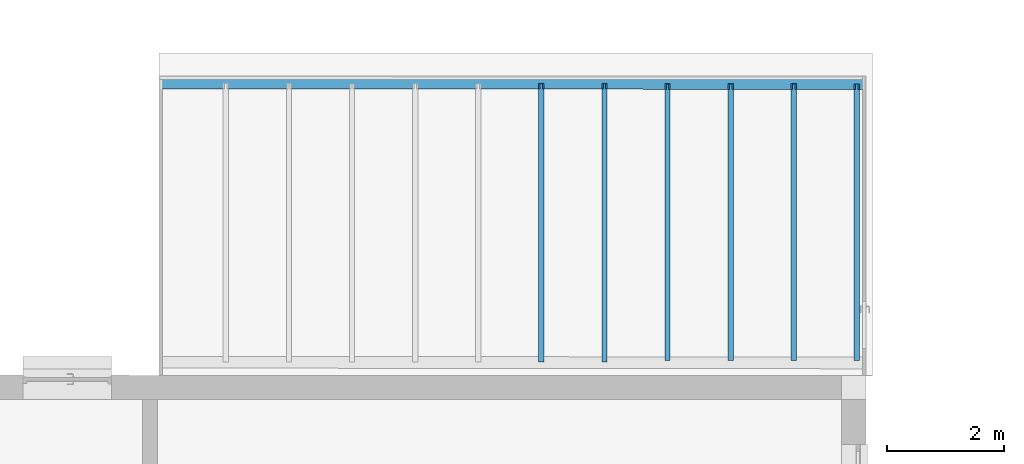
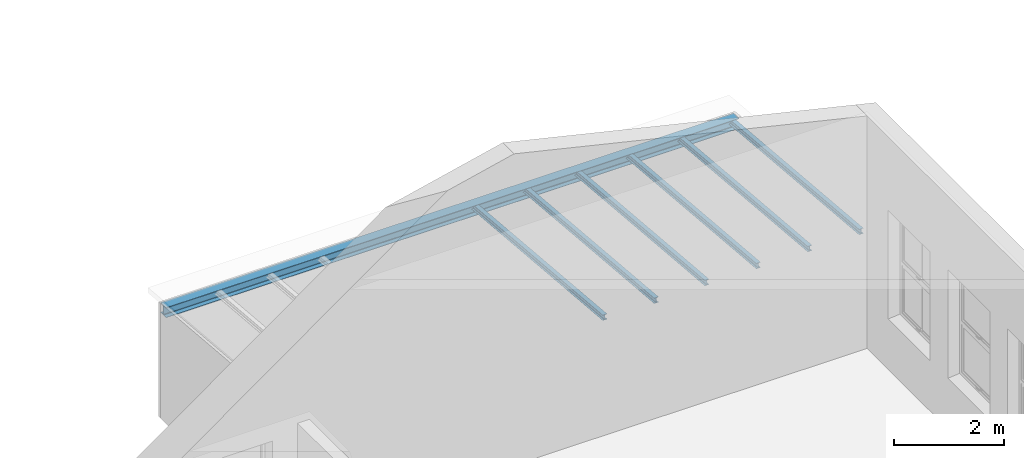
# One storey, part 65 of 301: 7 beams.
"""IFC2X3 building model written with IfcOpenShell, lengths in millimetres."""

import ifcopenshell
import ifcopenshell.guid

model = None  # the IFC model being written
_history = None  # IfcOwnerHistory: only IFC2X3 demands one
_inside = {}  # id of a spatial element -> (the spatial element, [elements in it])
_under = {}  # id of a project, library or spatial element -> (it, [spatial elements below it])
_declared = {}  # id of a project -> (the project, [libraries it declares])
_typed = {}  # id of a type object -> (the type object, [elements of that type])
_made_of = {}  # id of a material, layer set ... -> (it, [elements and type objects made of it])


def new_model(schema):
    """Start an empty IFC model of exactly this schema.

    Asked for "IFC4X3", IfcOpenShell would pick the latest addendum, in which some entities
    have other attributes; the version numbers below select the first issue.
    IFC2X3 requires an IfcOwnerHistory on every rooted entity: one is made here for all.
    """
    global model, _history
    if schema == "IFC4X3":
        model = ifcopenshell.file(schema_version=(4, 3, 0, 0))
    else:
        model = ifcopenshell.file(schema=schema)
    _inside.clear()
    _under.clear()
    _declared.clear()
    _typed.clear()
    _made_of.clear()
    _history = None
    if model.schema == "IFC2X3":
        org = make("IfcOrganization", Name="unknown")
        user = make(
            "IfcPersonAndOrganization",
            ThePerson=make("IfcPerson", FamilyName="unknown"),
            TheOrganization=org,
        )
        app = make(
            "IfcApplication",
            ApplicationDeveloper=org,
            Version="unknown",
            ApplicationFullName="unknown",
            ApplicationIdentifier="unknown",
        )
        _history = make(
            "IfcOwnerHistory",
            OwningUser=user,
            OwningApplication=app,
            ChangeAction="ADDED",
            CreationDate=0,
        )
    return model


def make(cls, **values):
    """One entity of the class cls with the attributes given. An attribute that is None is left unset."""
    return model.create_entity(
        cls, **{name: value for name, value in values.items() if value is not None}
    )


def entity(cls, *values):
    """Any entity or typed value of the class cls, its attributes in the order of the schema. None: left unset."""
    e = model.create_entity(cls)
    for i, value in enumerate(values):
        if value is not None:
            e[i] = value
    return e


def rooted(cls, **values):
    """An entity with a GlobalId (a new one), such as an element, a storey or a relation."""
    return make(cls, GlobalId=ifcopenshell.guid.new(), OwnerHistory=_history, **values)


def si_unit(unit_type, name, prefix=None):
    """IfcSIUnit, for example si_unit("LENGTHUNIT", "METRE", prefix="MILLI")."""
    return make("IfcSIUnit", UnitType=unit_type, Prefix=prefix, Name=name)


def converted_unit(unit_type, name, factor, base, dimensions=None, offset=None):
    """IfcConversionBasedUnit, such as the inch: factor (a typed value) times the base unit."""
    return make(
        "IfcConversionBasedUnit"
        if offset is None
        else "IfcConversionBasedUnitWithOffset",
        ConversionOffset=offset,
        Dimensions=None
        if dimensions is None
        else entity("IfcDimensionalExponents", *dimensions),
        UnitType=unit_type,
        Name=name,
        ConversionFactor=make(
            "IfcMeasureWithUnit", ValueComponent=factor, UnitComponent=base
        ),
    )


def derived_unit(unit_type, elements):
    """IfcDerivedUnit: a product of units, each with its exponent."""
    return make(
        "IfcDerivedUnit",
        Elements=[
            make("IfcDerivedUnitElement", Unit=unit, Exponent=power)
            for unit, power in elements
        ],
        UnitType=unit_type,
    )


def money_unit(currency):
    """IfcMonetaryUnit."""
    return make("IfcMonetaryUnit", Currency=currency)


def assignment(units):
    """IfcUnitAssignment: the units of a project."""
    return None if units is None else make("IfcUnitAssignment", Units=units)


def point(xyz):
    """IfcCartesianPoint."""
    return None if xyz is None else make("IfcCartesianPoint", Coordinates=xyz)


def direction(xyz):
    """IfcDirection."""
    return None if xyz is None else make("IfcDirection", DirectionRatios=xyz)


def frame(location, z_axis=None, x_axis=None):
    """IfcAxis2Placement3D, a coordinate frame: its origin and axes. An axis left out is left unset."""
    return make(
        "IfcAxis2Placement3D",
        Location=point(location),
        Axis=direction(z_axis),
        RefDirection=direction(x_axis),
    )


def origin_with_axes():
    """The frame at (0, 0, 0) with the z axis (0, 0, 1) and the x axis (1, 0, 0) written out."""
    return frame((0.0, 0.0, 0.0), z_axis=(0.0, 0.0, 1.0), x_axis=(1.0, 0.0, 0.0))


def place(relative_to, where):
    """IfcLocalPlacement: puts the frame where relative to a parent placement (None: the world)."""
    return make(
        "IfcLocalPlacement", PlacementRelTo=relative_to, RelativePlacement=where
    )


def context(
    kind, dimensions, precision=None, world=None, true_north=None, identifier=None
):
    """IfcGeometricRepresentationContext, for example the 3D "Model" context."""
    return make(
        "IfcGeometricRepresentationContext",
        ContextIdentifier=identifier,
        ContextType=kind,
        CoordinateSpaceDimension=dimensions,
        Precision=precision,
        WorldCoordinateSystem=world,
        TrueNorth=true_north,
    )


def subcontext(parent, identifier, kind, view, scale=None):
    """IfcGeometricRepresentationSubContext, for example "Body" below "Model"."""
    return make(
        "IfcGeometricRepresentationSubContext",
        ContextIdentifier=identifier,
        ContextType=kind,
        ParentContext=parent,
        TargetScale=scale,
        TargetView=view,
    )


def project(units=None, contexts=None):
    """IfcProject with its units and contexts."""
    return rooted(
        "IfcProject",
        Name="project",
        RepresentationContexts=contexts,
        UnitsInContext=assignment(units),
    )


def spatial(cls, under=None, at=None, **own):
    """A site, building, storey or space (cls), placed at a placement, below another one or the project."""
    s = rooted(cls, ObjectPlacement=at, **own)
    if under is not None:
        _under.setdefault(under.id(), (under, []))[1].append(s)
    return s


def faces_of(points, faces, orient=None, outer=None):
    """IfcFace entities. A face is a list of loops; a loop is a list of indices into points, from 0.

    orient and outer hold one flag for each loop. By default every Orientation is true, the
    first loop of a face is its IfcFaceOuterBound and the others are IfcFaceBound.
    """
    made = []
    for i, loops in enumerate(faces):
        bounds = []
        for j, loop in enumerate(loops):
            is_outer = j == 0 if outer is None else outer[i][j]
            bounds.append(
                make(
                    "IfcFaceOuterBound" if is_outer else "IfcFaceBound",
                    Bound=make("IfcPolyLoop", Polygon=[points[k] for k in loop]),
                    Orientation=True if orient is None else orient[i][j],
                )
            )
        made.append(make("IfcFace", Bounds=bounds))
    return made


def faceted_brep(points, faces, orient=None, outer=None, voids=None):
    """IfcFacetedBrep: a solid bounded by flat faces; with voids (closed shells), ...WithVoids."""
    shared = [point(p) for p in points]
    hull = make("IfcClosedShell", CfsFaces=faces_of(shared, faces, orient, outer))
    if voids is None:
        return make("IfcFacetedBrep", Outer=hull)
    return make(
        "IfcFacetedBrepWithVoids",
        Outer=hull,
        Voids=[
            make(cls, CfsFaces=faces_of(shared, fs, o, b)) for cls, fs, o, b in voids
        ],
    )


def shape(context_of_items, identifier, shape_type, items):
    """IfcShapeRepresentation: the items that make up one representation, for example the "Body"."""
    return make(
        "IfcShapeRepresentation",
        ContextOfItems=context_of_items,
        RepresentationIdentifier=identifier,
        RepresentationType=shape_type,
        Items=items,
    )


def material(Name=None, Category=None):
    """IfcMaterial."""
    return make("IfcMaterial", Name=Name, Category=Category)


def made_of(thing, what):
    """Note that an element or type object is made of a material, layer set ...; save() writes the relation."""
    if what is not None:
        _made_of.setdefault(what.id(), (what, []))[1].append(thing)
    return thing


def type_object(cls, material=None, **own):
    """A type object (cls), such as IfcWallType, which elements share."""
    return made_of(rooted(cls, **own), material)


def element(
    cls,
    number,
    at=None,
    inside=None,
    cuts=None,
    type_object=None,
    material=None,
    context=None,
    identifier="Body",
    shape_type=None,
    held_by="IfcProductDefinitionShape",
    body=None,
    shapes=None,
    **own,
):
    """One element of the class cls, such as IfcWall. Its Tag is "e" and its number.

    at: its placement. inside: the storey or other place that contains it. cuts: it is an
    opening in that element (IfcRelVoidsElement). A single representation is given by context,
    identifier, shape_type and body (its items); several are given by shapes. held_by: the class
    of the entity that holds the representations. save() writes the other relations.
    """
    e = rooted(cls, Tag="e%d" % number, ObjectPlacement=at, **own)
    if body is not None:
        shapes = [shape(context, identifier, shape_type, body)]
    if shapes is not None:
        e.Representation = make(held_by, Representations=shapes)
    if inside is not None:
        _inside.setdefault(inside.id(), (inside, []))[1].append(e)
    if cuts is not None:
        rooted(
            "IfcRelVoidsElement", RelatingBuildingElement=cuts, RelatedOpeningElement=e
        )
    if type_object is not None:
        _typed.setdefault(type_object.id(), (type_object, []))[1].append(e)
    return made_of(e, material)


def aggregate(whole, parts):
    """IfcRelAggregates: a whole, such as a stair, and the parts it consists of."""
    return rooted("IfcRelAggregates", RelatingObject=whole, RelatedObjects=parts)


def save(model, path):
    """Write the relations noted so far, then the file.

    IfcRelAggregates (storeys below a building ...), IfcRelContainedInSpatialStructure (elements
    in a storey), IfcRelDefinesByType, IfcRelAssociatesMaterial and IfcRelDeclares: one each for
    every whole, place, type object, material and project.
    """
    for whole, parts in _under.values():
        aggregate(whole, parts)
    for where, things in _inside.values():
        rooted(
            "IfcRelContainedInSpatialStructure",
            RelatedElements=things,
            RelatingStructure=where,
        )
    for kind, things in _typed.values():
        rooted("IfcRelDefinesByType", RelatedObjects=things, RelatingType=kind)
    for what, things in _made_of.values():
        rooted("IfcRelAssociatesMaterial", RelatedObjects=things, RelatingMaterial=what)
    for by, libraries in _declared.values():
        rooted("IfcRelDeclares", RelatingContext=by, RelatedDefinitions=libraries)
    model.write(path)


model = new_model("IFC2X3")

# Units and contexts
model_context = context("Model", 3, precision=0.01, world=origin_with_axes(), true_north=direction((0.0, 1.0)))
body_context = subcontext(model_context, "Body", "Model", "MODEL_VIEW")
ifc_project = project(units=[si_unit("LENGTHUNIT", "METRE", prefix="MILLI"), si_unit("AREAUNIT", "SQUARE_METRE"), si_unit("VOLUMEUNIT", "CUBIC_METRE"), converted_unit("PLANEANGLEUNIT", "DEGREE", entity("IfcPlaneAngleMeasure", 0.0174532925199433), si_unit("PLANEANGLEUNIT", "RADIAN"), dimensions=[0, 0, 0, 0, 0, 0, 0]), money_unit("EUR"), converted_unit("TIMEUNIT", "Year", entity("IfcTimeMeasure", 31557600.0), si_unit("TIMEUNIT", "SECOND"), dimensions=[0, 0, 1, 0, 0, 0, 0]), si_unit("MASSUNIT", "GRAM", prefix="KILO"), si_unit("THERMODYNAMICTEMPERATUREUNIT", "DEGREE_CELSIUS"), si_unit("LUMINOUSINTENSITYUNIT", "LUMEN"), si_unit("ENERGYUNIT", "JOULE", prefix="MEGA"), derived_unit("THERMALCONDUCTANCEUNIT", [(si_unit("POWERUNIT", "WATT"), 1), (si_unit("LENGTHUNIT", "METRE"), -1), (si_unit("THERMODYNAMICTEMPERATUREUNIT", "KELVIN"), -1)]), derived_unit("SPECIFICHEATCAPACITYUNIT", [(si_unit("ENERGYUNIT", "JOULE"), 1), (si_unit("MASSUNIT", "GRAM", prefix="KILO"), -1), (si_unit("THERMODYNAMICTEMPERATUREUNIT", "KELVIN"), -1)]), derived_unit("MASSDENSITYUNIT", [(si_unit("MASSUNIT", "GRAM", prefix="KILO"), 1), (si_unit("VOLUMEUNIT", "CUBIC_METRE"), -1)])], contexts=[model_context])

# Site, building, storey
site_placement = place(None, frame((0.0, 0.0, 8650.0), z_axis=(0.0, 0.0, 1.0), x_axis=(1.0, 0.0, 0.0)))
site = spatial("IfcSite", under=ifc_project, at=site_placement, Name="43301:001:0844", CompositionType="ELEMENT")
building_placement = place(site_placement, origin_with_axes())
building = spatial("IfcBuilding", under=site, at=building_placement, Name="Kuressaare Ametikooli tuulikute mehaanikute õppekorpus", CompositionType="ELEMENT")
storey_placement = place(building_placement, origin_with_axes())
storey = spatial("IfcBuildingStorey", under=building, at=storey_placement, Name="1.korrus", CompositionType="ELEMENT", Elevation=0.0)

# Beams
ifc_material_1 = material(Name="GENEERILINE - EHITUSTOODE")
beam_type_1 = type_object("IfcBeamType", Name="IPI-I-tala-200x225 200 x 225", PredefinedType="NOTDEFINED")
beam_1_placement = place(storey_placement, frame((103602.1136141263, 127711.2776185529, 1325.182089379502), z_axis=(0.0, 0.0, 1.0), x_axis=(0.001036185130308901, 0.9999994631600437, 0.0)))
element("IfcBeam", 1, at=beam_1_placement, inside=storey, type_object=beam_type_1, material=ifc_material_1, context=body_context, shape_type="Brep", body=[
    faceted_brep([(-99.99999999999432, 0.0, 94.99999999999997), (-99.99999999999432, 11973.87483544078, 94.99999999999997), (-99.99999999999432, 11973.87483544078, 84.99999999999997), (-99.99999999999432, 0.0, 84.99999999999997), (100.0000000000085, 0.0, 94.99999999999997), (100.0000000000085, 11973.87483544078, 94.99999999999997), (100.0000000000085, 11973.87483544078, 84.99999999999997), (21.25000000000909, 11973.87483544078, 84.99999999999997), (12.24999999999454, 11973.87483544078, 82.58845726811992), (5.661542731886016, 11973.8748354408, 76.00000000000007), (3.250000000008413, 11973.87483544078, 66.99999999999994), (3.250000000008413, 11973.87483544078, -102.0000000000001), (5.661542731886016, 11973.8748354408, -111.0), (12.24999999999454, 11973.87483544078, -117.5884572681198), (21.25000000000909, 11973.87483544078, -120.0000000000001), (100.0000000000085, 11973.87483544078, -120.0000000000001), (100.0000000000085, 11973.87483544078, -130.0000000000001), (-99.99999999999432, 11973.87483544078, -130.0000000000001), (-99.99999999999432, 11973.87483544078, -120.0000000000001), (-21.24999999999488, 11973.87483544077, -120.0000000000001), (-12.24999999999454, 11973.87483544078, -117.5884572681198), (-5.661542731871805, 11973.87483544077, -111.0), (-3.249999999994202, 11973.87483544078, -102.0000000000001), (-3.249999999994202, 11973.87483544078, 66.99999999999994), (-5.661542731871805, 11973.87483544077, 76.00000000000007), (-12.24999999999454, 11973.87483544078, 82.58845726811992), (-21.24999999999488, 11973.87483544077, 84.99999999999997), (-21.24999999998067, 0.0, 84.99999999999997), (-12.24999999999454, 0.0, 82.58845726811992), (-5.661542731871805, 0.0, 76.00000000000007), (-3.249999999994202, 0.0, 66.99999999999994), (-3.249999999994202, 0.0, -102.0000000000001), (-5.661542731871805, 0.0, -111.0), (-12.24999999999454, 0.0, -117.5884572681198), (-21.24999999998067, 0.0, -120.0000000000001), (-99.99999999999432, 0.0, -120.0000000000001), (-99.99999999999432, 0.0, -130.0000000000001), (100.0000000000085, 0.0, -130.0000000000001), (100.0000000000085, 0.0, -120.0000000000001), (21.25000000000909, 0.0, -120.0000000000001), (12.24999999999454, 0.0, -117.5884572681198), (5.661542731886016, 0.0, -111.0), (3.250000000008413, 0.0, -102.0000000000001), (3.250000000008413, 0.0, 66.99999999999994), (5.661542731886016, 0.0, 76.00000000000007), (12.24999999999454, 0.0, 82.58845726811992), (21.25000000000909, 0.0, 84.99999999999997), (100.0000000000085, 0.0, 84.99999999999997)], [[[0, 1, 2, 3]], [[4, 5, 1, 0]], [[2, 1, 5, 6, 7, 8, 9, 10, 11, 12, 13, 14, 15, 16, 17, 18, 19, 20, 21, 22, 23, 24, 25, 26]], [[3, 2, 26, 27]], [[4, 0, 3, 27, 28, 29, 30, 31, 32, 33, 34, 35, 36, 37, 38, 39, 40, 41, 42, 43, 44, 45, 46, 47]], [[47, 6, 5, 4]], [[46, 7, 6, 47]], [[45, 8, 7, 46]], [[44, 9, 8, 45]], [[43, 10, 9, 44]], [[42, 11, 10, 43]], [[41, 12, 11, 42]], [[40, 13, 12, 41]], [[39, 14, 13, 40]], [[38, 15, 14, 39]], [[37, 16, 15, 38]], [[36, 17, 16, 37]], [[35, 18, 17, 36]], [[34, 19, 18, 35]], [[33, 20, 19, 34]], [[32, 21, 20, 33]], [[31, 22, 21, 32]], [[30, 23, 22, 31]], [[29, 24, 23, 30]], [[28, 25, 24, 29]], [[27, 26, 25, 28]]]),
])
ifc_material_2 = material(Name="GENEERILINE - KONSTRUKTRIOON")
beam_type_2 = type_object("IfcBeamType", Name="IPI-I-tala-90x120 90 x 120", PredefinedType="NOTDEFINED")
beam_2_placement = place(storey_placement, frame((98115.1513925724, 127716.9631302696, 1312.606456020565), z_axis=(0.0, 0.0, 1.0), x_axis=(-1.0, 0.0, 0.0)))
element("IfcBeam", 2, at=beam_2_placement, inside=storey, type_object=beam_type_2, material=ifc_material_2, context=body_context, shape_type="Brep", body=[
    faceted_brep([(-45.00000000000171, 4749.491260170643, 511.1302874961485), (-45.00000000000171, 4749.491260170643, 505.1073420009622), (-45.00617874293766, 100.046688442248, 98.09829825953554), (-45.00000000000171, 100.0466820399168, 104.1213168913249), (-5.641956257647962, 4749.491260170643, 496.0781166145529), (-12.2408998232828, 4749.491260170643, 502.6918074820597), (-21.24999999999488, 4749.491260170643, 505.1073420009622), (45.00000000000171, 4749.491260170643, 511.1302874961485), (45.00000000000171, 4749.491260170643, 505.1073420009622), (21.24999999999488, 4749.491260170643, 505.1073420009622), (12.20098340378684, 4749.491260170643, 502.7137438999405), (5.5565447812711, 4749.491260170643, 496.0990159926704), (3.097056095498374, 4749.491260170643, 487.0355692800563), (3.249999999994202, 4749.491260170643, 414.7631595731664), (5.661542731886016, 4749.491260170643, 405.7287413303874), (12.24999999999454, 4749.491260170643, 399.115088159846), (21.24999999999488, 4749.491260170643, 396.6943230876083), (45.00000000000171, 4749.491260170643, 396.6943230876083), (45.00000000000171, 4749.491260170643, 390.671377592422), (-45.00000000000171, 4749.491260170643, 390.671377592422), (-45.00000000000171, 4749.491260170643, 396.6943230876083), (-21.24999999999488, 4749.491260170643, 396.6943230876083), (-12.39887809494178, 4749.491260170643, 399.2139878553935), (-5.988614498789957, 4749.491260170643, 405.8385669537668), (-3.736834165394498, 4749.491260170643, 414.7930097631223), (-3.221350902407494, 4749.491260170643, 487.0384025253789), (-21.24999999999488, 100.0220726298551, 98.09621710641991), (21.24999999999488, 99.97803473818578, 98.09236206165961), (45.00000000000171, 99.95342532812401, 98.09020777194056), (45.00000000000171, 99.95342532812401, 104.1131532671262), (-19.30906105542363, 100.0200614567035, 97.57563335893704), (19.29583292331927, 99.98005961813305, 97.57563335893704), (-5.641956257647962, 3.535861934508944, 80.62065955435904), (-12.2408998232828, 5.357563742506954, 87.39382086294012), (-16.5438034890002, 5.678688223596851, 88.57563335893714), (-19.30906105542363, 6.494384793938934, 89.3884641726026), (19.29583292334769, 6.454382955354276, 89.38846417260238), (16.49095847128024, 5.644458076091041, 88.57563335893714), (12.20098340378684, 5.337648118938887, 87.41401388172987), (5.5565447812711, 3.529713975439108, 80.64102074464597), (5.274211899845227, 3.244536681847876, 79.57563335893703), (3.097056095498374, 3.246792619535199, 71.55280730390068), (3.249999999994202, 3.246634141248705, -0.7196162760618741), (5.661542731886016, 3.244135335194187, -9.754253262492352), (12.24999999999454, 3.237308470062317, -16.36850405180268), (21.24999999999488, 3.227982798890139, -18.79008548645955), (45.00000000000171, 3.203373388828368, -18.79223977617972), (45.00000000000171, 3.203373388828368, -24.81518527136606), (-45.00000000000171, 3.296630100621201, -24.80702164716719), (-45.00000000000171, 3.296630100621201, -18.78407615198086), (-21.24999999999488, 3.27202069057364, -18.78623044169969), (-12.39887809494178, 3.262849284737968, -16.26736853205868), (-5.988614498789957, 3.256207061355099, -9.643370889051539), (-3.736834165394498, 3.253873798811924, -0.6891323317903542), (-3.221350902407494, 3.253339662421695, 71.55621367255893), (-5.368695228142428, 3.255564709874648, 79.57563335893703)], [[[0, 1, 2, 3]], [[4, 5, 6, 1, 0, 7, 8, 9, 10, 11, 12, 13, 14, 15, 16, 17, 18, 19, 20, 21, 22, 23, 24, 25]], [[1, 6, 26, 2]], [[27, 28, 29, 3, 2, 26, 30, 31]], [[7, 0, 3, 29]], [[5, 4, 32, 33]], [[5, 33, 34, 35, 30, 26, 6]], [[8, 7, 29, 28]], [[9, 8, 28, 27]], [[31, 36, 37, 38, 10, 9, 27]], [[11, 10, 38, 39]], [[11, 39, 40, 41, 12]], [[13, 12, 41, 42]], [[14, 13, 42, 43]], [[15, 14, 43, 44]], [[16, 15, 44, 45]], [[17, 16, 45, 46]], [[18, 17, 46, 47]], [[19, 18, 47, 48]], [[20, 19, 48, 49]], [[21, 20, 49, 50]], [[22, 21, 50, 51]], [[23, 22, 51, 52]], [[24, 23, 52, 53]], [[25, 24, 53, 54]], [[25, 54, 55, 32, 4]], [[31, 30, 35, 36]], [[38, 37, 34, 33, 32, 55, 40, 39]], [[34, 37, 36, 35]], [[52, 51, 50, 49, 48, 47, 46, 45, 44, 43, 42, 41, 40, 55, 54, 53]]]),
])
beam_3_placement = place(storey_placement, frame((99190.1513925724, 127715.8492306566, 1312.606456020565), z_axis=(0.0, 0.0, 1.0), x_axis=(-1.0, 0.0, 0.0)))
element("IfcBeam", 3, at=beam_3_placement, inside=storey, type_object=beam_type_2, material=ifc_material_2, context=body_context, shape_type="Brep", body=[
    faceted_brep([(-45.00000000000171, 4748.377360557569, 511.0327775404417), (-45.00000000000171, 4748.377360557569, 505.0098320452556), (-45.00617874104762, 100.046688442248, 98.09829825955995), (-45.00000000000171, 100.0466820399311, 104.1213168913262), (-5.641956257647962, 4748.377360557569, 495.9806066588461), (-12.2408998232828, 4748.377360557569, 502.5942975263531), (-21.24999999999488, 4748.377360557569, 505.0098320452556), (45.00000000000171, 4748.377360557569, 511.0327775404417), (45.00000000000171, 4748.377360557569, 505.0098320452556), (21.24999999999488, 4748.377360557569, 505.0098320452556), (12.20098340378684, 4748.377360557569, 502.616233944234), (5.5565447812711, 4748.377360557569, 496.0015060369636), (3.097056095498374, 4748.377360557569, 486.9380593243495), (3.249999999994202, 4748.377360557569, 414.6656496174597), (5.661542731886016, 4748.377360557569, 405.6312313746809), (12.24999999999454, 4748.377360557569, 399.0175782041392), (21.24999999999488, 4748.377360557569, 396.5968131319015), (45.00000000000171, 4748.377360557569, 396.5968131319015), (45.00000000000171, 4748.377360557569, 390.5738676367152), (-45.00000000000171, 4748.377360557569, 390.5738676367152), (-45.00000000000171, 4748.377360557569, 396.5968131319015), (-21.24999999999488, 4748.377360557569, 396.5968131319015), (-12.39887809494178, 4748.377360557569, 399.1164778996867), (-5.988614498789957, 4748.377360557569, 405.7410569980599), (-3.736834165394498, 4748.377360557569, 414.6954998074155), (-3.221350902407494, 4748.377360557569, 486.9408925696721), (-21.24999999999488, 100.0220726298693, 98.09621710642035), (21.24999999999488, 99.97803473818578, 98.09236206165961), (45.00000000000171, 99.95342532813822, 98.09020777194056), (45.00000000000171, 99.95342532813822, 104.1131532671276), (-19.30906105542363, 100.0200614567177, 97.57563335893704), (19.29583292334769, 99.98005961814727, 97.57563335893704), (-5.641956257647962, 3.535861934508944, 80.62065955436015), (-12.2408998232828, 5.357563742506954, 87.39382086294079), (-16.5438034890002, 5.678688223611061, 88.57563335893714), (-19.30906105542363, 6.494384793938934, 89.38846417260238), (19.29583292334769, 6.454382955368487, 89.38846417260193), (16.49095847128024, 5.644458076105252, 88.57563335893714), (12.20098340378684, 5.337648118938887, 87.41401388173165), (5.5565447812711, 3.529713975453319, 80.64102074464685), (5.274211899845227, 3.244536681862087, 79.57563335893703), (3.097056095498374, 3.246792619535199, 71.55280730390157), (3.249999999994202, 3.246634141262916, -0.7196162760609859), (5.661542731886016, 3.244135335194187, -9.754253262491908), (12.24999999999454, 3.237308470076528, -16.36850405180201), (21.24999999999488, 3.22798279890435, -18.79008548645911), (45.00000000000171, 3.203373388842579, -18.79223977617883), (45.00000000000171, 3.203373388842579, -24.81518527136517), (-45.00000000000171, 3.296630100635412, -24.80702164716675), (-45.00000000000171, 3.296630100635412, -18.78407615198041), (-21.24999999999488, 3.27202069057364, -18.78623044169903), (-12.39887809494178, 3.262849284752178, -16.26736853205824), (-5.988614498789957, 3.256207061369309, -9.643370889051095), (-3.736834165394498, 3.253873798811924, -0.6891323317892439), (-3.221350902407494, 3.253339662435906, 71.5562136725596), (-5.368695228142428, 3.255564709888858, 79.57563335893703)], [[[0, 1, 2, 3]], [[4, 5, 6, 1, 0, 7, 8, 9, 10, 11, 12, 13, 14, 15, 16, 17, 18, 19, 20, 21, 22, 23, 24, 25]], [[1, 6, 26, 2]], [[27, 28, 29, 3, 2, 26, 30, 31]], [[7, 0, 3, 29]], [[5, 4, 32, 33]], [[5, 33, 34, 35, 30, 26, 6]], [[8, 7, 29, 28]], [[9, 8, 28, 27]], [[31, 36, 37, 38, 10, 9, 27]], [[11, 10, 38, 39]], [[11, 39, 40, 41, 12]], [[13, 12, 41, 42]], [[14, 13, 42, 43]], [[15, 14, 43, 44]], [[16, 15, 44, 45]], [[17, 16, 45, 46]], [[18, 17, 46, 47]], [[19, 18, 47, 48]], [[20, 19, 48, 49]], [[21, 20, 49, 50]], [[22, 21, 50, 51]], [[23, 22, 51, 52]], [[24, 23, 52, 53]], [[25, 24, 53, 54]], [[25, 54, 55, 32, 4]], [[31, 30, 35, 36]], [[38, 37, 34, 33, 32, 55, 40, 39]], [[34, 37, 36, 35]], [[52, 51, 50, 49, 48, 47, 46, 45, 44, 43, 42, 41, 40, 55, 54, 53]]]),
])
beam_4_placement = place(storey_placement, frame((100264.8414603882, 127714.7356521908, 1312.606456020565), z_axis=(0.0, 0.0, 1.0), x_axis=(-1.0, 0.0, 0.0)))
element("IfcBeam", 4, at=beam_4_placement, inside=storey, type_object=beam_type_2, material=ifc_material_2, context=body_context, shape_type="Brep", body=[
    faceted_brep([(-45.00000000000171, 4721.451805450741, 508.6757341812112), (-45.00000000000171, 4721.451805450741, 502.6527886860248), (-45.00617869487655, 100.0466884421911, 98.09829826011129), (-45.00000000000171, 100.0466820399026, 104.1213168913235), (-5.641956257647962, 4721.451805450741, 493.6235632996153), (-12.2408998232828, 4721.451805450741, 500.2372541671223), (-21.24999999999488, 4721.451805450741, 502.6527886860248), (45.00000000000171, 4721.451805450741, 508.6757341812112), (45.00000000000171, 4721.451805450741, 502.6527886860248), (21.24999999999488, 4721.451805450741, 502.6527886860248), (12.20098340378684, 4721.451805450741, 500.2591905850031), (5.5565447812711, 4721.451805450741, 493.6444626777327), (3.097056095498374, 4721.451805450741, 484.5810159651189), (3.249999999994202, 4721.451805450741, 412.3086062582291), (5.661542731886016, 4721.451805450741, 403.27418801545), (12.24999999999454, 4721.451805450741, 396.6605348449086), (21.24999999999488, 4721.451805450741, 394.2397697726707), (45.00000000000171, 4721.451805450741, 394.2397697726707), (45.00000000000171, 4721.451805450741, 388.2168242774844), (-45.00000000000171, 4721.451805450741, 388.2168242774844), (-45.00000000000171, 4721.451805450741, 394.2397697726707), (-21.24999999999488, 4721.451805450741, 394.2397697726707), (-12.39887809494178, 4721.451805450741, 396.7594345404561), (-5.988614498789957, 4721.451805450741, 403.3840136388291), (-3.736834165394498, 4721.451805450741, 412.3384564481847), (-3.221350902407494, 4721.451805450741, 484.5838492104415), (-21.24999999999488, 100.0220726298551, 98.0962171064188), (21.24999999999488, 99.97803473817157, 98.09236206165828), (45.00000000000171, 99.95342532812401, 98.09020777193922), (45.00000000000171, 99.95342532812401, 104.1131532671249), (-19.30906105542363, 100.0200614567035, 97.57563335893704), (19.29583292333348, 99.98005961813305, 97.57563335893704), (-5.641956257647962, 3.535861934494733, 80.6206595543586), (-12.2408998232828, 5.357563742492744, 87.39382086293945), (-16.5438034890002, 5.678688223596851, 88.57563335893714), (-19.30906105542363, 6.494384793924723, 89.38846417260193), (19.29583292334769, 6.454382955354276, 89.38846417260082), (16.49095847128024, 5.644458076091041, 88.57563335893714), (12.20098340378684, 5.337648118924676, 87.41401388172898), (5.5565447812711, 3.529713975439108, 80.64102074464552), (5.274211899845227, 3.244536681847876, 79.57563335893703), (3.097056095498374, 3.246792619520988, 71.55280730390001), (3.249999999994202, 3.246634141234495, -0.7196162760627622), (5.661542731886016, 3.244135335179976, -9.754253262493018), (12.24999999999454, 3.237308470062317, -16.36850405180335), (21.24999999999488, 3.227982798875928, -18.79008548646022), (45.00000000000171, 3.203373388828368, -18.79223977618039), (45.00000000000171, 3.203373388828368, -24.81518527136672), (-45.00000000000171, 3.296630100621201, -24.80702164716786), (-45.00000000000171, 3.296630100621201, -18.78407615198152), (-21.24999999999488, 3.27202069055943, -18.78623044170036), (-12.39887809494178, 3.262849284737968, -16.26736853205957), (-5.988614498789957, 3.256207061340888, -9.643370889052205), (-3.736834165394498, 3.253873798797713, -0.6891323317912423), (-3.221350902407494, 3.253339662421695, 71.55621367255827), (-5.368695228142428, 3.255564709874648, 79.57563335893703)], [[[0, 1, 2, 3]], [[4, 5, 6, 1, 0, 7, 8, 9, 10, 11, 12, 13, 14, 15, 16, 17, 18, 19, 20, 21, 22, 23, 24, 25]], [[1, 6, 26, 2]], [[27, 28, 29, 3, 2, 26, 30, 31]], [[7, 0, 3, 29]], [[5, 4, 32, 33]], [[5, 33, 34, 35, 30, 26, 6]], [[8, 7, 29, 28]], [[9, 8, 28, 27]], [[31, 36, 37, 38, 10, 9, 27]], [[11, 10, 38, 39]], [[11, 39, 40, 41, 12]], [[13, 12, 41, 42]], [[14, 13, 42, 43]], [[15, 14, 43, 44]], [[16, 15, 44, 45]], [[17, 16, 45, 46]], [[18, 17, 46, 47]], [[19, 18, 47, 48]], [[20, 19, 48, 49]], [[21, 20, 49, 50]], [[22, 21, 50, 51]], [[23, 22, 51, 52]], [[24, 23, 52, 53]], [[25, 24, 53, 54]], [[25, 54, 55, 32, 4]], [[31, 30, 35, 36]], [[38, 37, 34, 33, 32, 55, 40, 39]], [[34, 37, 36, 35]], [[52, 51, 50, 49, 48, 47, 46, 45, 44, 43, 42, 41, 40, 55, 54, 53]]]),
])
beam_5_placement = place(storey_placement, frame((101339.8414603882, 127713.6217525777, 1312.606456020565), z_axis=(0.0, 0.0, 1.0), x_axis=(-1.0, 0.0, 0.0)))
element("IfcBeam", 5, at=beam_5_placement, inside=storey, type_object=beam_type_2, material=ifc_material_2, context=body_context, shape_type="Brep", body=[
    faceted_brep([(-45.00000000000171, 4720.337905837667, 508.5782242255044), (-45.00000000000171, 4720.337905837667, 502.555278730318), (-45.00617869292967, 100.0466884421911, 98.0982982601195), (-45.00000000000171, 100.0466820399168, 104.1213168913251), (-5.641956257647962, 4720.337905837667, 493.5260533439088), (-12.2408998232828, 4720.337905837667, 500.1397442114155), (-21.24999999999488, 4720.337905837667, 502.555278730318), (45.00000000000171, 4720.337905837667, 508.5782242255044), (45.00000000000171, 4720.337905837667, 502.555278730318), (21.24999999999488, 4720.337905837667, 502.555278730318), (12.20098340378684, 4720.337905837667, 500.1616806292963), (5.5565447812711, 4720.337905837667, 493.5469527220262), (3.097056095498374, 4720.337905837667, 484.4835060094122), (3.249999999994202, 4720.337905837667, 412.2110963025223), (5.661542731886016, 4720.337905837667, 403.1766780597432), (12.24999999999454, 4720.337905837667, 396.5630248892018), (21.24999999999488, 4720.337905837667, 394.1422598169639), (45.00000000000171, 4720.337905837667, 394.1422598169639), (45.00000000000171, 4720.337905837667, 388.1193143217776), (-45.00000000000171, 4720.337905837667, 388.1193143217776), (-45.00000000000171, 4720.337905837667, 394.1422598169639), (-21.24999999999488, 4720.337905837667, 394.1422598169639), (-12.39887809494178, 4720.337905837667, 396.6619245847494), (-5.988614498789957, 4720.337905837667, 403.2865036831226), (-3.736834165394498, 4720.337905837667, 412.2409464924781), (-3.221350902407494, 4720.337905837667, 484.486339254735), (-21.24999999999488, 100.0220726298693, 98.09621710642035), (21.24999999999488, 99.97803473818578, 98.09236206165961), (45.00000000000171, 99.95342532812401, 98.09020777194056), (45.00000000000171, 99.95342532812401, 104.1131532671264), (-19.30906105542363, 100.0200614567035, 97.57563335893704), (19.29583292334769, 99.98005961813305, 97.57563335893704), (-5.641956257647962, 3.535861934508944, 80.62065955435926), (-12.2408998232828, 5.357563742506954, 87.39382086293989), (-16.5438034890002, 5.678688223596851, 88.57563335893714), (-19.30906105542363, 6.494384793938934, 89.38846417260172), (19.29583292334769, 6.454382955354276, 89.38846417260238), (16.49095847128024, 5.644458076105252, 88.57563335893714), (12.20098340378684, 5.337648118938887, 87.41401388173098), (5.5565447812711, 3.529713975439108, 80.64102074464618), (5.274211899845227, 3.244536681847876, 79.57563335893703), (3.097056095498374, 3.246792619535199, 71.55280730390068), (3.249999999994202, 3.246634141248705, -0.71961627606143), (5.661542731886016, 3.244135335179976, -9.754253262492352), (12.24999999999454, 3.237308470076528, -16.36850405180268), (21.24999999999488, 3.227982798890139, -18.79008548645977), (45.00000000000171, 3.203373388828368, -18.79223977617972), (45.00000000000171, 3.203373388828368, -24.81518527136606), (-45.00000000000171, 3.296630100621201, -24.80702164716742), (-45.00000000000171, 3.296630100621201, -18.78407615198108), (-21.24999999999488, 3.27202069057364, -18.78623044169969), (-12.39887809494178, 3.262849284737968, -16.2673685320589), (-5.988614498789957, 3.256207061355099, -9.643370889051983), (-3.736834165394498, 3.253873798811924, -0.6891323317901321), (-3.221350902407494, 3.253339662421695, 71.55621367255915), (-5.368695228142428, 3.255564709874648, 79.57563335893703)], [[[0, 1, 2, 3]], [[4, 5, 6, 1, 0, 7, 8, 9, 10, 11, 12, 13, 14, 15, 16, 17, 18, 19, 20, 21, 22, 23, 24, 25]], [[1, 6, 26, 2]], [[27, 28, 29, 3, 2, 26, 30, 31]], [[7, 0, 3, 29]], [[5, 4, 32, 33]], [[5, 33, 34, 35, 30, 26, 6]], [[8, 7, 29, 28]], [[9, 8, 28, 27]], [[31, 36, 37, 38, 10, 9, 27]], [[11, 10, 38, 39]], [[11, 39, 40, 41, 12]], [[13, 12, 41, 42]], [[14, 13, 42, 43]], [[15, 14, 43, 44]], [[16, 15, 44, 45]], [[17, 16, 45, 46]], [[18, 17, 46, 47]], [[19, 18, 47, 48]], [[20, 19, 48, 49]], [[21, 20, 49, 50]], [[22, 21, 50, 51]], [[23, 22, 51, 52]], [[24, 23, 52, 53]], [[25, 24, 53, 54]], [[25, 54, 55, 32, 4]], [[31, 30, 35, 36]], [[38, 37, 34, 33, 32, 55, 40, 39]], [[34, 37, 36, 35]], [[52, 51, 50, 49, 48, 47, 46, 45, 44, 43, 42, 41, 40, 55, 54, 53]]]),
])
beam_6_placement = place(storey_placement, frame((102414.8414603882, 127712.5078529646, 1312.606456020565), z_axis=(0.0, 0.0, 1.0), x_axis=(-1.0, 0.0, 0.0)))
element("IfcBeam", 6, at=beam_6_placement, inside=storey, type_object=beam_type_2, material=ifc_material_2, context=body_context, shape_type="Brep", body=[
    faceted_brep([(-45.00000000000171, 4719.224006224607, 508.4807142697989), (-45.00000000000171, 4719.224006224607, 502.4577687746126), (-45.00617869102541, 100.0466884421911, 98.09829826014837), (-45.00000000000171, 100.0466820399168, 104.1213168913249), (-5.641956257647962, 4719.224006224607, 493.4285433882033), (-12.2408998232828, 4719.224006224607, 500.04223425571), (-21.24999999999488, 4719.224006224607, 502.4577687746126), (45.00000000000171, 4719.224006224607, 508.4807142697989), (45.00000000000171, 4719.224006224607, 502.4577687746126), (21.24999999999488, 4719.224006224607, 502.4577687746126), (12.20098340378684, 4719.224006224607, 500.0641706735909), (5.5565447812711, 4719.224006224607, 493.4494427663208), (3.097056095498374, 4719.224006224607, 484.3859960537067), (3.249999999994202, 4719.224006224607, 412.1135863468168), (5.661542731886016, 4719.224006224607, 403.0791681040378), (12.24999999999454, 4719.224006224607, 396.4655149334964), (21.24999999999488, 4719.224006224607, 394.0447498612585), (45.00000000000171, 4719.224006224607, 394.0447498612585), (45.00000000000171, 4719.224006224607, 388.0218043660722), (-45.00000000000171, 4719.224006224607, 388.0218043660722), (-45.00000000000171, 4719.224006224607, 394.0447498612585), (-21.24999999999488, 4719.224006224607, 394.0447498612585), (-12.39887809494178, 4719.224006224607, 396.5644146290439), (-5.988614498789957, 4719.224006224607, 403.1889937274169), (-3.736834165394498, 4719.224006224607, 412.1434365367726), (-3.221350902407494, 4719.224006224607, 484.3888292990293), (-21.24999999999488, 100.0220726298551, 98.09621710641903), (21.24999999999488, 99.97803473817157, 98.0923620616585), (45.00000000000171, 99.95342532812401, 98.09020777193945), (45.00000000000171, 99.95342532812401, 104.1131532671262), (-19.30906105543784, 100.0200614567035, 97.57563335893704), (19.29583292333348, 99.98005961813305, 97.57563335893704), (-5.641956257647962, 3.535861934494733, 80.62065955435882), (-12.2408998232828, 5.357563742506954, 87.39382086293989), (-16.5438034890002, 5.678688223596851, 88.57563335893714), (-19.30906105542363, 6.494384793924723, 89.3884641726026), (19.29583292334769, 6.454382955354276, 89.3884641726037), (16.49095847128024, 5.644458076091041, 88.57563335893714), (12.20098340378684, 5.337648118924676, 87.41401388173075), (5.5565447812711, 3.529713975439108, 80.64102074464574), (5.274211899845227, 3.244536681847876, 79.57563335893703), (3.097056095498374, 3.246792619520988, 71.55280730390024), (3.249999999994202, 3.246634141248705, -0.7196162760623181), (5.661542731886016, 3.244135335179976, -9.754253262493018), (12.24999999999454, 3.237308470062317, -16.36850405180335), (21.24999999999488, 3.227982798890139, -18.79008548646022), (45.00000000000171, 3.203373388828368, -18.79223977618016), (45.00000000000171, 3.203373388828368, -24.8151852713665), (-45.00000000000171, 3.296630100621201, -24.80702164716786), (-45.00000000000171, 3.296630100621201, -18.78407615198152), (-21.24999999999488, 3.27202069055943, -18.78623044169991), (-12.39887809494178, 3.262849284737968, -16.26736853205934), (-5.988614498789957, 3.256207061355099, -9.643370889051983), (-3.736834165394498, 3.253873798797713, -0.6891323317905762), (-3.221350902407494, 3.253339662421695, 71.55621367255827), (-5.368695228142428, 3.255564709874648, 79.57563335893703)], [[[0, 1, 2, 3]], [[4, 5, 6, 1, 0, 7, 8, 9, 10, 11, 12, 13, 14, 15, 16, 17, 18, 19, 20, 21, 22, 23, 24, 25]], [[1, 6, 26, 2]], [[27, 28, 29, 3, 2, 26, 30, 31]], [[7, 0, 3, 29]], [[5, 4, 32, 33]], [[5, 33, 34, 35, 30, 26, 6]], [[8, 7, 29, 28]], [[9, 8, 28, 27]], [[31, 36, 37, 38, 10, 9, 27]], [[11, 10, 38, 39]], [[11, 39, 40, 41, 12]], [[13, 12, 41, 42]], [[14, 13, 42, 43]], [[15, 14, 43, 44]], [[16, 15, 44, 45]], [[17, 16, 45, 46]], [[18, 17, 46, 47]], [[19, 18, 47, 48]], [[20, 19, 48, 49]], [[21, 20, 49, 50]], [[22, 21, 50, 51]], [[23, 22, 51, 52]], [[24, 23, 52, 53]], [[25, 24, 53, 54]], [[25, 54, 55, 32, 4]], [[31, 30, 35, 36]], [[38, 37, 34, 33, 32, 55, 40, 39]], [[34, 37, 36, 35]], [[52, 51, 50, 49, 48, 47, 46, 45, 44, 43, 42, 41, 40, 55, 54, 53]]]),
])
beam_7_placement = place(storey_placement, frame((103489.8414603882, 127711.3939533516, 1312.606456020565), z_axis=(0.0, 0.0, 1.0), x_axis=(-1.0, 0.0, 0.0)))
element("IfcBeam", 7, at=beam_7_placement, inside=storey, type_object=beam_type_2, material=ifc_material_2, context=body_context, shape_type="Brep", body=[
    faceted_brep([(-45.00000000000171, 4718.110106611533, 508.3832043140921), (-45.00000000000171, 4718.110106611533, 502.360258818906), (-45.00617868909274, 100.0466884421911, 98.09829826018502), (-45.00000000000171, 100.0466820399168, 104.1213168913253), (-5.641956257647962, 4718.110106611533, 493.3310334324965), (-12.2408998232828, 4718.110106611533, 499.9447243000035), (-21.24999999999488, 4718.110106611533, 502.360258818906), (45.00000000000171, 4718.110106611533, 508.3832043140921), (45.00000000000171, 4718.110106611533, 502.360258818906), (21.24999999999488, 4718.110106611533, 502.360258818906), (12.20098340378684, 4718.110106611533, 499.9666607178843), (5.5565447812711, 4718.110106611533, 493.351932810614), (3.097056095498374, 4718.110106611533, 484.2884860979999), (3.249999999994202, 4718.110106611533, 412.0160763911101), (5.661542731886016, 4718.110106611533, 402.9816581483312), (12.24999999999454, 4718.110106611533, 396.3680049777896), (21.24999999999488, 4718.110106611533, 393.9472399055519), (45.00000000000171, 4718.110106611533, 393.9472399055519), (45.00000000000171, 4718.110106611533, 387.9242944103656), (-45.00000000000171, 4718.110106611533, 387.9242944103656), (-45.00000000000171, 4718.110106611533, 393.9472399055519), (-21.24999999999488, 4718.110106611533, 393.9472399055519), (-12.39887809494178, 4718.110106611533, 396.4669046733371), (-5.988614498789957, 4718.110106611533, 403.0914837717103), (-3.736834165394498, 4718.110106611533, 412.0459265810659), (-3.221350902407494, 4718.110106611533, 484.2913193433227), (-21.24999999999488, 100.0220726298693, 98.09621710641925), (21.24999999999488, 99.97803473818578, 98.09236206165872), (45.00000000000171, 99.95342532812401, 98.09020777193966), (45.00000000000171, 99.95342532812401, 104.1131532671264), (-19.30906105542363, 100.0200614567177, 97.57563335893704), (19.29583292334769, 99.98005961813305, 97.57563335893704), (-5.641956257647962, 3.535861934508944, 80.6206595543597), (-12.2408998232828, 5.357563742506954, 87.39382086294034), (-16.54380348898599, 5.678688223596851, 88.57563335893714), (-19.30906105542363, 6.494384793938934, 89.38846417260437), (19.29583292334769, 6.454382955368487, 89.38846417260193), (16.49095847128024, 5.644458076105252, 88.57563335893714), (12.20098340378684, 5.337648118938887, 87.41401388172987), (5.5565447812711, 3.529713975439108, 80.64102074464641), (5.274211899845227, 3.244536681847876, 79.57563335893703), (3.097056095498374, 3.246792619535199, 71.55280730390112), (3.249999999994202, 3.246634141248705, -0.71961627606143), (5.661542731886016, 3.244135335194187, -9.75425326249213), (12.24999999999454, 3.237308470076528, -16.36850405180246), (21.24999999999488, 3.227982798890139, -18.79008548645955), (45.00000000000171, 3.203373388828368, -18.7922397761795), (45.00000000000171, 3.203373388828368, -24.81518527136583), (-45.00000000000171, 3.296630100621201, -24.80702164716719), (-45.00000000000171, 3.296630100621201, -18.78407615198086), (-21.24999999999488, 3.27202069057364, -18.78623044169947), (-12.39887809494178, 3.262849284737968, -16.26736853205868), (-5.988614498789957, 3.256207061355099, -9.643370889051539), (-3.736834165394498, 3.253873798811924, -0.6891323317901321), (-3.221350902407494, 3.253339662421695, 71.55621367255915), (-5.368695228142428, 3.255564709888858, 79.57563335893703)], [[[0, 1, 2, 3]], [[4, 5, 6, 1, 0, 7, 8, 9, 10, 11, 12, 13, 14, 15, 16, 17, 18, 19, 20, 21, 22, 23, 24, 25]], [[1, 6, 26, 2]], [[27, 28, 29, 3, 2, 26, 30, 31]], [[7, 0, 3, 29]], [[5, 4, 32, 33]], [[5, 33, 34, 35, 30, 26, 6]], [[8, 7, 29, 28]], [[9, 8, 28, 27]], [[31, 36, 37, 38, 10, 9, 27]], [[11, 10, 38, 39]], [[11, 39, 40, 41, 12]], [[13, 12, 41, 42]], [[14, 13, 42, 43]], [[15, 14, 43, 44]], [[16, 15, 44, 45]], [[17, 16, 45, 46]], [[18, 17, 46, 47]], [[19, 18, 47, 48]], [[20, 19, 48, 49]], [[21, 20, 49, 50]], [[22, 21, 50, 51]], [[23, 22, 51, 52]], [[24, 23, 52, 53]], [[25, 24, 53, 54]], [[25, 54, 55, 32, 4]], [[31, 30, 35, 36]], [[38, 37, 34, 33, 32, 55, 40, 39]], [[34, 37, 36, 35]], [[52, 51, 50, 49, 48, 47, 46, 45, 44, 43, 42, 41, 40, 55, 54, 53]]]),
])

save(model, "model.ifc")
